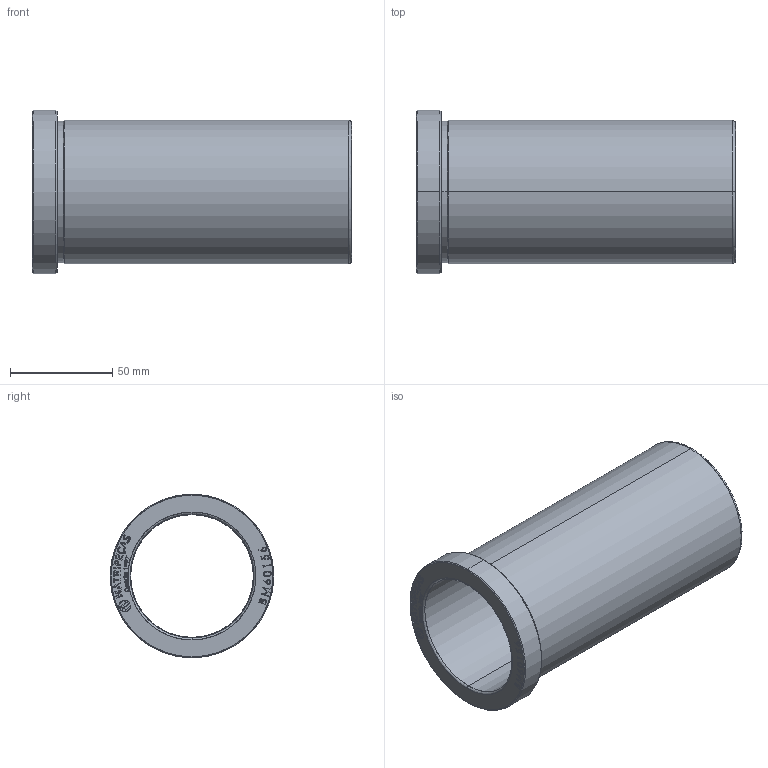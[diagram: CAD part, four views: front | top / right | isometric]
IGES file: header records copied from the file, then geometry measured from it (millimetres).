
Start section: SolidWorks IGES file using analytic representation for surfaces
Global section: file name: C:\Users\evers\OneDrive\Área de Trabalho\Trivector\MATRIPEÇAS\BM - BUCHA PRINCIPAL TIPO E31\BM60156.IGS; native system: SolidWorks 2024; preprocessor: SolidWorks 2024; author: evers; date: 260903.160448; units: millimetre
Bounding box: 156 x 80 x 80 mm (x, y, z)
Surface area: 68174.6 mm2 (no closed solid volume)
Topology: 0 solids, 0 shells, 406 faces, 5130 edges, 5130 vertices
Faces by surface type: bspline 377, revolution 29
